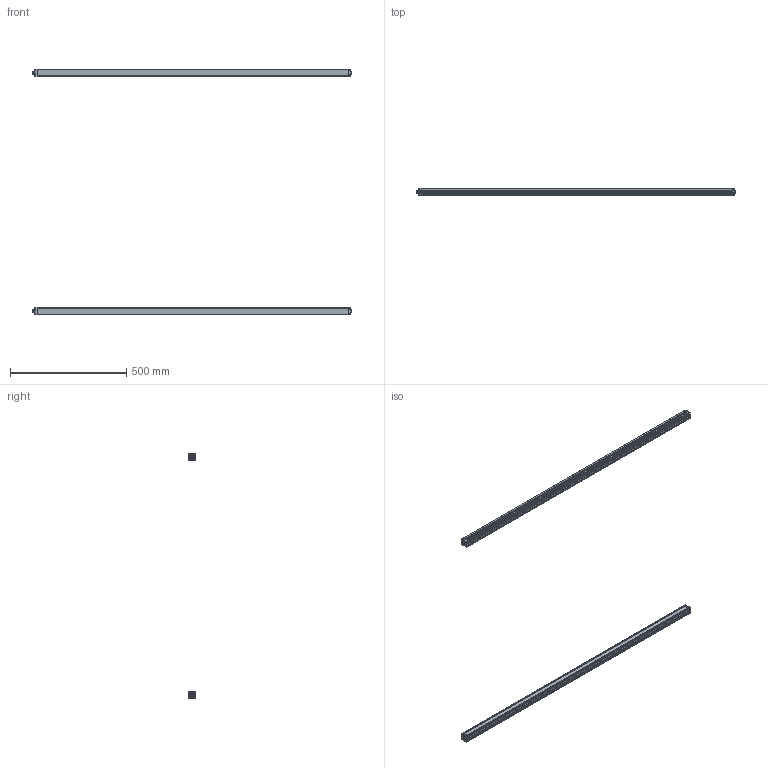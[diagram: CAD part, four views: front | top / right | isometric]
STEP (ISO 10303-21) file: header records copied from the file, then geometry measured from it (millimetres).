
FILE_DESCRIPTION(/* description */ (''),/* implementation_level */ '2;1');
FILE_NAME(/* name */ 'THS20-50_stp.stp',/* time_stamp */ '2023-08-07T13:17:14+08:00',/* author */ (''),/* organization */ (''),/* preprocessor_version */ 'ST-DEVELOPER v16',/* originating_system */ 'SIEMENS PLM Software NX 11.0',/* authorisation */ '');
FILE_SCHEMA (('AP203_CONFIGURATION_CONTROLLED_3D_DESIGN_OF_MECHANICAL_PARTS_AND_ASSEMBLIES_MIM_LF { 1 0 10303 403 2 1 2}'));
Length unit declared in the file: millimetre
Products named in the file (10): 16; 14; 12; 13; 102; 101; 11; ASM0002_ASM; 0000_ASM; THS20-50_stp
Assembly tree (10 placements, depth 4):
  THS20-50_stp
    0000_ASM  x2
      11
      101
      102
      13
      12
      ASM0002_ASM
        14
        16
Bounding box: 1372 x 30.3 x 1058.6 mm (x, y, z)
Volume: 839939.5 mm3; surface area: 902338.2 mm2
Topology: 10 solids, 14 shells, 1080 faces, 3010 edges, 1986 vertices
Faces by surface type: plane 764, cylinder 288, cone 28
Entity records: 18744 total; most frequent: CARTESIAN_POINT 3289, ORIENTED_EDGE 3006, DIRECTION 2911, EDGE_CURVE 1505, LINE 1159, VECTOR 1159, VERTEX_POINT 993, AXIS2_PLACEMENT_3D 876
